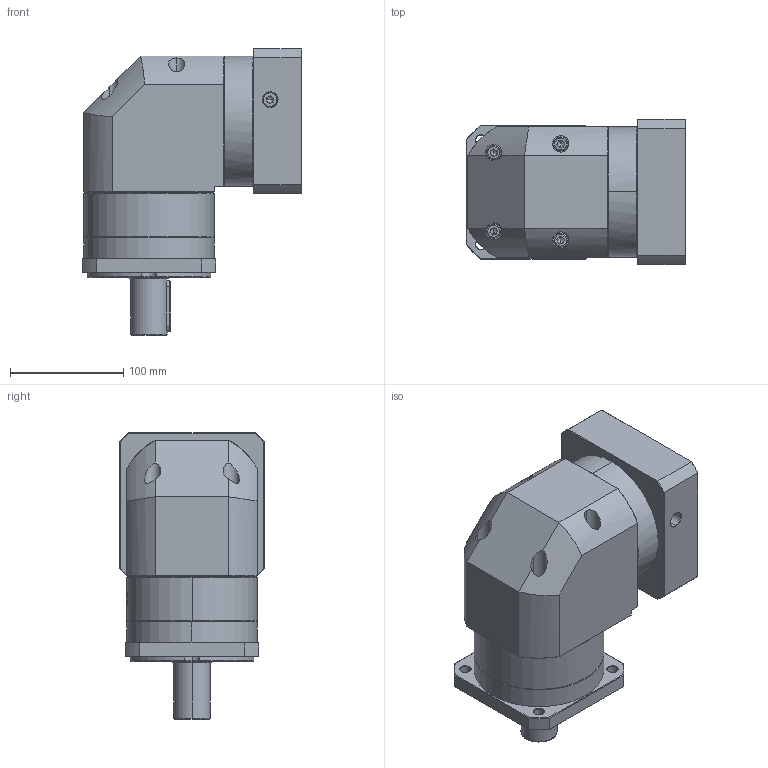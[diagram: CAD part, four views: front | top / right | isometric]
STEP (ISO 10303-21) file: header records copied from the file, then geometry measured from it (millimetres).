
FILE_DESCRIPTION (( 'STEP AP214' ), '1' );
FILE_NAME ('ZFR120A-D32-L1-P2-22-110-145-M8.step', '2023-08-27T08:07:14', ( '' ), ( '' ), 'SwSTEP 2.0', 'SolidWorks 2016', '' );
FILE_SCHEMA (( 'AUTOMOTIVE_DESIGN' ));
Length unit declared in the file: millimetre
Products named in the file (1): ZFR120A-D32-L1-P2-22-110-145-M8
Bounding box: 193.9 x 128 x 253 mm (x, y, z)
Volume: 2992894.1 mm3; surface area: 252713.9 mm2
Topology: 6 solids, 6 shells, 2266 faces, 5975 edges, 3814 vertices
Faces by surface type: plane 1061, cylinder 434, bspline 425, cone 338, torus 8
Entity records: 124447 total; most frequent: CARTESIAN_POINT 49049, ORIENTED_EDGE 11890, DIRECTION 8619, EDGE_CURVE 5945, VERTEX_POINT 3814, VECTOR 3159, LINE 3159, AXIS2_PLACEMENT_3D 2730
